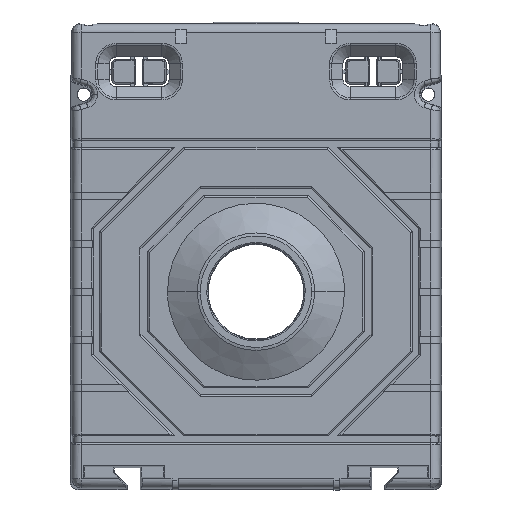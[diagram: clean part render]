
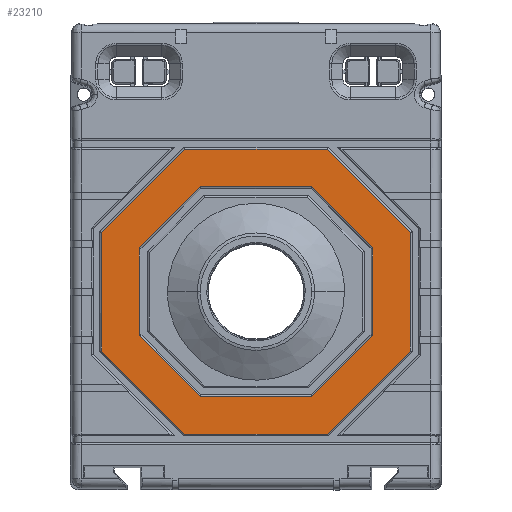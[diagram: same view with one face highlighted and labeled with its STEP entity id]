
A CAD part, top view. The second image highlights one B-rep face of the part: STEP entity #23210.
In plain terms, the highlighted planar face has unit normal (0, 0, 1).
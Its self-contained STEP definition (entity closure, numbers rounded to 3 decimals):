
#44 = EDGE_CURVE ( 'NONE', #23593, #38042, #50974, .T. ) ;
#405 = ORIENTED_EDGE ( 'NONE', *, *, #41509, .T. ) ;
#635 = VECTOR ( 'NONE', #35228, 1000. ) ;
#916 = ORIENTED_EDGE ( 'NONE', *, *, #20034, .T. ) ;
#1273 = CARTESIAN_POINT ( 'NONE',  ( -18.806, 10.806, 17.5 ) ) ;
#2111 = CARTESIAN_POINT ( 'NONE',  ( 11.886, -29.725, 17.5 ) ) ;
#2812 = B_SPLINE_CURVE_WITH_KNOTS ( 'NONE', 3,
 ( #52980, #6662, #7483, #23498 ),
 .UNSPECIFIED., .F., .F.,
 ( 4, 4 ),
 ( 0., 1. ),
 .UNSPECIFIED. ) ;
#3033 = CARTESIAN_POINT ( 'NONE',  ( -25.725, -29.725, 17.5 ) ) ;
#3480 = VECTOR ( 'NONE', #51020, 1000. ) ;
#3687 = CARTESIAN_POINT ( 'NONE',  ( -19.475, -13.297, 17.5 ) ) ;
#3729 = ORIENTED_EDGE ( 'NONE', *, *, #19610, .T. ) ;
#3953 = LINE ( 'NONE', #29612, #21417 ) ;
#4214 = ORIENTED_EDGE ( 'NONE', *, *, #14255, .T. ) ;
#4422 = CARTESIAN_POINT ( 'NONE',  ( 9.297, -23.475, 17.5 ) ) ;
#5006 = EDGE_LOOP ( 'NONE', ( #4214, #3729, #916, #12674, #19024, #11195, #46197, #41498 ) ) ;
#5149 = EDGE_CURVE ( 'NONE', #32678, #31548, #36092, .T. ) ;
#5534 = EDGE_CURVE ( 'NONE', #32126, #23593, #36857, .T. ) ;
#5952 = CARTESIAN_POINT ( 'NONE',  ( -9.297, -23.475, 17.5 ) ) ;
#6220 = CARTESIAN_POINT ( 'NONE',  ( -12.69, -20.082, 17.5 ) ) ;
#6558 = CARTESIAN_POINT ( 'NONE',  ( -9.297, -23.475, 17.5 ) ) ;
#6662 = CARTESIAN_POINT ( 'NONE',  ( -16.082, 4.69, 17.5 ) ) ;
#7102 = DIRECTION ( 'NONE',  ( -1., 0., 0. ) ) ;
#7483 = CARTESIAN_POINT ( 'NONE',  ( -12.69, 8.082, 17.5 ) ) ;
#7927 = LINE ( 'NONE', #53142, #28021 ) ;
#8651 = VECTOR ( 'NONE', #20311, 1000. ) ;
#9922 = LINE ( 'NONE', #18458, #35230 ) ;
#10455 = B_SPLINE_CURVE_WITH_KNOTS ( 'NONE', 3,
 ( #33969, #45510, #29261, #4422 ),
 .UNSPECIFIED., .F., .F.,
 ( 4, 4 ),
 ( 0., 1. ),
 .UNSPECIFIED. ) ;
#10738 = B_SPLINE_CURVE_WITH_KNOTS ( 'NONE', 3,
 ( #5952, #6220, #39885, #17849 ),
 .UNSPECIFIED., .F., .F.,
 ( 4, 4 ),
 ( 0., 1. ),
 .UNSPECIFIED. ) ;
#11036 = LINE ( 'NONE', #27844, #25754 ) ;
#11195 = ORIENTED_EDGE ( 'NONE', *, *, #39414, .T. ) ;
#11340 = EDGE_CURVE ( 'NONE', #54489, #44810, #15896, .T. ) ;
#11604 = DIRECTION ( 'NONE',  ( 0., 0., 1. ) ) ;
#11815 = ORIENTED_EDGE ( 'NONE', *, *, #50531, .T. ) ;
#11947 = CARTESIAN_POINT ( 'NONE',  ( 18.806, -22.806, 17.5 ) ) ;
#12674 = ORIENTED_EDGE ( 'NONE', *, *, #42646, .T. ) ;
#12693 = EDGE_CURVE ( 'NONE', #44810, #30120, #46415, .T. ) ;
#13207 = CARTESIAN_POINT ( 'NONE',  ( -18.806, -22.806, 17.5 ) ) ;
#13961 = VERTEX_POINT ( 'NONE', #52940 ) ;
#14255 = EDGE_CURVE ( 'NONE', #30120, #27780, #42193, .T. ) ;
#14353 = CARTESIAN_POINT ( 'NONE',  ( 9.297, 11.475, 17.5 ) ) ;
#14358 = EDGE_CURVE ( 'NONE', #19929, #51263, #9922, .T. ) ;
#15049 = DIRECTION ( 'NONE',  ( 1., 0., 0. ) ) ;
#15217 = ORIENTED_EDGE ( 'NONE', *, *, #44, .T. ) ;
#15432 = DIRECTION ( 'NONE',  ( -0.707, 0.707, 0. ) ) ;
#15896 = LINE ( 'NONE', #32746, #8651 ) ;
#16417 = CARTESIAN_POINT ( 'NONE',  ( -9.297, 11.475, 17.5 ) ) ;
#17849 = CARTESIAN_POINT ( 'NONE',  ( -19.475, -13.297, 17.5 ) ) ;
#18106 = DIRECTION ( 'NONE',  ( -0.707, -0.707, 0. ) ) ;
#18458 = CARTESIAN_POINT ( 'NONE',  ( 25.725, -6., 17.5 ) ) ;
#18923 = ORIENTED_EDGE ( 'NONE', *, *, #51947, .T. ) ;
#19024 = ORIENTED_EDGE ( 'NONE', *, *, #5149, .T. ) ;
#19610 = EDGE_CURVE ( 'NONE', #27780, #29850, #10455, .T. ) ;
#19929 = VERTEX_POINT ( 'NONE', #27952 ) ;
#20008 = LINE ( 'NONE', #53341, #53474 ) ;
#20034 = EDGE_CURVE ( 'NONE', #29850, #54078, #3953, .T. ) ;
#20311 = DIRECTION ( 'NONE',  ( 1., 0., 0. ) ) ;
#21417 = VECTOR ( 'NONE', #34317, 1000. ) ;
#22269 = AXIS2_PLACEMENT_3D ( 'NONE', #3033, #11604, #54021 ) ;
#22877 = DIRECTION ( 'NONE',  ( 0., 1., 0. ) ) ;
#23210 = ADVANCED_FACE ( 'NONE', ( #45487, #44663 ), #28958, .T. ) ;
#23498 = CARTESIAN_POINT ( 'NONE',  ( -9.297, 11.475, 17.5 ) ) ;
#23593 = VERTEX_POINT ( 'NONE', #27796 ) ;
#23811 = LINE ( 'NONE', #11947, #635 ) ;
#25177 = CARTESIAN_POINT ( 'NONE',  ( 9.297, 11.475, 17.5 ) ) ;
#25754 = VECTOR ( 'NONE', #15432, 1000. ) ;
#27022 = VECTOR ( 'NONE', #38576, 1000. ) ;
#27780 = VERTEX_POINT ( 'NONE', #46137 ) ;
#27796 = CARTESIAN_POINT ( 'NONE',  ( -25.725, -15.886, 17.5 ) ) ;
#27844 = CARTESIAN_POINT ( 'NONE',  ( 18.806, 10.806, 17.5 ) ) ;
#27952 = CARTESIAN_POINT ( 'NONE',  ( 25.725, -15.886, 17.5 ) ) ;
#27961 = CARTESIAN_POINT ( 'NONE',  ( -19.475, 1.297, 17.5 ) ) ;
#28021 = VECTOR ( 'NONE', #7102, 1000. ) ;
#28585 = CARTESIAN_POINT ( 'NONE',  ( -25.725, -6., 17.5 ) ) ;
#28886 = ORIENTED_EDGE ( 'NONE', *, *, #34496, .T. ) ;
#28958 = PLANE ( 'NONE',  #22269 ) ;
#29261 = CARTESIAN_POINT ( 'NONE',  ( 12.69, -20.082, 17.5 ) ) ;
#29584 = CARTESIAN_POINT ( 'NONE',  ( 19.475, 1.297, 17.5 ) ) ;
#29612 = CARTESIAN_POINT ( 'NONE',  ( 0., -23.475, 17.5 ) ) ;
#29850 = VERTEX_POINT ( 'NONE', #40186 ) ;
#30120 = VERTEX_POINT ( 'NONE', #49175 ) ;
#31064 = LINE ( 'NONE', #1273, #32979 ) ;
#31144 = DIRECTION ( 'NONE',  ( 0., 1., 0. ) ) ;
#31548 = VERTEX_POINT ( 'NONE', #27961 ) ;
#32126 = VERTEX_POINT ( 'NONE', #51835 ) ;
#32678 = VERTEX_POINT ( 'NONE', #3687 ) ;
#32746 = CARTESIAN_POINT ( 'NONE',  ( 0., 11.475, 17.5 ) ) ;
#32979 = VECTOR ( 'NONE', #18106, 1000. ) ;
#33969 = CARTESIAN_POINT ( 'NONE',  ( 19.475, -13.297, 17.5 ) ) ;
#34317 = DIRECTION ( 'NONE',  ( -1., 0., 0. ) ) ;
#34372 = ORIENTED_EDGE ( 'NONE', *, *, #5534, .T. ) ;
#34496 = EDGE_CURVE ( 'NONE', #51263, #39263, #11036, .T. ) ;
#35228 = DIRECTION ( 'NONE',  ( 0.707, 0.707, 0. ) ) ;
#35230 = VECTOR ( 'NONE', #31144, 1000. ) ;
#36092 = LINE ( 'NONE', #39702, #53264 ) ;
#36857 = LINE ( 'NONE', #28585, #46291 ) ;
#38042 = VERTEX_POINT ( 'NONE', #41101 ) ;
#38576 = DIRECTION ( 'NONE',  ( 0.707, -0.707, 0. ) ) ;
#38871 = ORIENTED_EDGE ( 'NONE', *, *, #14358, .T. ) ;
#38997 = CARTESIAN_POINT ( 'NONE',  ( 11.886, 17.725, 17.5 ) ) ;
#39263 = VERTEX_POINT ( 'NONE', #38997 ) ;
#39414 = EDGE_CURVE ( 'NONE', #31548, #54489, #2812, .T. ) ;
#39702 = CARTESIAN_POINT ( 'NONE',  ( -19.475, -6., 17.5 ) ) ;
#39885 = CARTESIAN_POINT ( 'NONE',  ( -16.082, -16.69, 17.5 ) ) ;
#40078 = EDGE_LOOP ( 'NONE', ( #38871, #28886, #46311, #405, #34372, #15217, #11815, #18923 ) ) ;
#40186 = CARTESIAN_POINT ( 'NONE',  ( 9.297, -23.475, 17.5 ) ) ;
#41101 = CARTESIAN_POINT ( 'NONE',  ( -11.886, -29.725, 17.5 ) ) ;
#41498 = ORIENTED_EDGE ( 'NONE', *, *, #12693, .T. ) ;
#41509 = EDGE_CURVE ( 'NONE', #13961, #32126, #31064, .T. ) ;
#41970 = CARTESIAN_POINT ( 'NONE',  ( 12.69, 8.082, 17.5 ) ) ;
#42193 = LINE ( 'NONE', #50466, #3480 ) ;
#42646 = EDGE_CURVE ( 'NONE', #54078, #32678, #10738, .T. ) ;
#42789 = CARTESIAN_POINT ( 'NONE',  ( 16.082, 4.69, 17.5 ) ) ;
#44663 = FACE_OUTER_BOUND ( 'NONE', #40078, .T. ) ;
#44675 = CARTESIAN_POINT ( 'NONE',  ( 25.725, 3.886, 17.5 ) ) ;
#44810 = VERTEX_POINT ( 'NONE', #14353 ) ;
#45487 = FACE_BOUND ( 'NONE', #5006, .T. ) ;
#45510 = CARTESIAN_POINT ( 'NONE',  ( 16.082, -16.69, 17.5 ) ) ;
#46137 = CARTESIAN_POINT ( 'NONE',  ( 19.475, -13.297, 17.5 ) ) ;
#46197 = ORIENTED_EDGE ( 'NONE', *, *, #11340, .T. ) ;
#46291 = VECTOR ( 'NONE', #53650, 1000. ) ;
#46311 = ORIENTED_EDGE ( 'NONE', *, *, #54132, .T. ) ;
#46415 = B_SPLINE_CURVE_WITH_KNOTS ( 'NONE', 3,
 ( #25177, #41970, #42789, #29584 ),
 .UNSPECIFIED., .F., .F.,
 ( 4, 4 ),
 ( 0., 1. ),
 .UNSPECIFIED. ) ;
#49175 = CARTESIAN_POINT ( 'NONE',  ( 19.475, 1.297, 17.5 ) ) ;
#50076 = VERTEX_POINT ( 'NONE', #2111 ) ;
#50466 = CARTESIAN_POINT ( 'NONE',  ( 19.475, -6., 17.5 ) ) ;
#50531 = EDGE_CURVE ( 'NONE', #38042, #50076, #20008, .T. ) ;
#50974 = LINE ( 'NONE', #13207, #27022 ) ;
#51020 = DIRECTION ( 'NONE',  ( 0., -1., 0. ) ) ;
#51263 = VERTEX_POINT ( 'NONE', #44675 ) ;
#51835 = CARTESIAN_POINT ( 'NONE',  ( -25.725, 3.886, 17.5 ) ) ;
#51947 = EDGE_CURVE ( 'NONE', #50076, #19929, #23811, .T. ) ;
#52940 = CARTESIAN_POINT ( 'NONE',  ( -11.886, 17.725, 17.5 ) ) ;
#52980 = CARTESIAN_POINT ( 'NONE',  ( -19.475, 1.297, 17.5 ) ) ;
#53142 = CARTESIAN_POINT ( 'NONE',  ( 0., 17.725, 17.5 ) ) ;
#53264 = VECTOR ( 'NONE', #22877, 1000. ) ;
#53341 = CARTESIAN_POINT ( 'NONE',  ( 0., -29.725, 17.5 ) ) ;
#53474 = VECTOR ( 'NONE', #15049, 1000. ) ;
#53650 = DIRECTION ( 'NONE',  ( 0., -1., 0. ) ) ;
#54021 = DIRECTION ( 'NONE',  ( 1., 0., 0. ) ) ;
#54078 = VERTEX_POINT ( 'NONE', #6558 ) ;
#54132 = EDGE_CURVE ( 'NONE', #39263, #13961, #7927, .T. ) ;
#54489 = VERTEX_POINT ( 'NONE', #16417 ) ;
